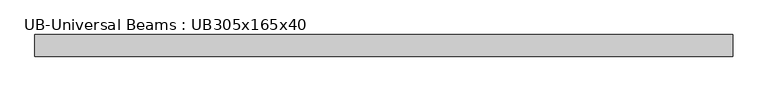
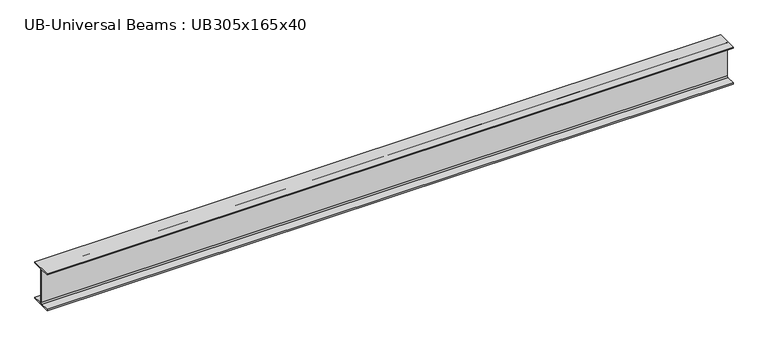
"""IFC4 building model written with IfcOpenShell, lengths in millimetres: beam geometry, UB-Universal Beams : UB305x165x40."""

from ifc_helpers import new_model, si_unit, point, frame, frame_2d, origin, place, context, project, spatial, polyline, circle_curve, trimmed, segment, composite_curve, outline, extrude, source, transform, mapped, element, save


def ub_universal_beams_ub305x165x40_3afb5f90(model_context):
    return source(origin(), model_context, "Body", "SweptSolid", [
        extrude(outline(composite_curve([segment(polyline([(82.5, -141.5), (82.5, -151.7), (-82.5, -151.7), (-82.5, -141.5), (-11.9, -141.5)]), True, "CONTINUOUS"), segment(trimmed(circle_curve(frame_2d((-11.9, -132.6)), 8.9), [point((-11.9, -141.5))], [point((-3.0, -132.6))], True, "CARTESIAN"), True, "CONTINUOUS"), segment(polyline([(-3.0, -132.6), (-3.0, 132.6)]), True, "CONTINUOUS"), segment(trimmed(circle_curve(frame_2d((-11.9, 132.6)), 8.9), [point((-3.0, 132.6))], [point((-11.9, 141.5))], True, "CARTESIAN"), True, "CONTINUOUS"), segment(polyline([(-11.9, 141.5), (-82.5, 141.5), (-82.5, 151.7), (82.5, 151.7), (82.5, 141.5), (11.9, 141.5)]), True, "CONTINUOUS"), segment(trimmed(circle_curve(frame_2d((11.9, 132.6)), 8.9), [point((11.9, 141.5))], [point((3.0, 132.6))], True, "CARTESIAN"), True, "CONTINUOUS"), segment(polyline([(3.0, 132.6), (3.0, -132.6)]), True, "CONTINUOUS"), segment(trimmed(circle_curve(frame_2d((11.9, -132.6)), 8.9), [point((3.0, -132.6))], [point((11.9, -141.5))], True, "CARTESIAN"), True, "CONTINUOUS"), segment(polyline([(11.9, -141.5), (82.5, -141.5)]), True, "CONTINUOUS")], self_intersect=False)), frame((-2640.3, 0.0, 0.0), z_axis=(1.0, 0.0, 0.0), x_axis=(0.0, 1.0, 0.0)), (0.0, 0.0, 1.0), 5330.8),
    ])


if __name__ == "__main__":
    model = new_model("IFC4")
    model_context = context("Model", 3, world=origin())
    ifc_project = project(units=[si_unit("LENGTHUNIT", "METRE", prefix="MILLI")], contexts=[model_context])
    site = spatial("IfcSite", under=ifc_project)
    building = spatial("IfcBuilding", under=site)
    placement = place(None, origin())
    ub_universal_beams_ub305x165x40_shape = ub_universal_beams_ub305x165x40_3afb5f90(model_context)
    element("IfcBeam", 1, ObjectType="UB-Universal Beams : UB305x165x40", at=placement, inside=building, context=model_context, shape_type="MappedRepresentation", body=[
        mapped(ub_universal_beams_ub305x165x40_shape, transform((0.0, 0.0, 0.0), x_axis=(1.0, 0.0, 0.0), y_axis=(0.0, 1.0, 0.0), z_axis=(0.0, 0.0, 1.0))),
    ])
    save(model, "model.ifc")
